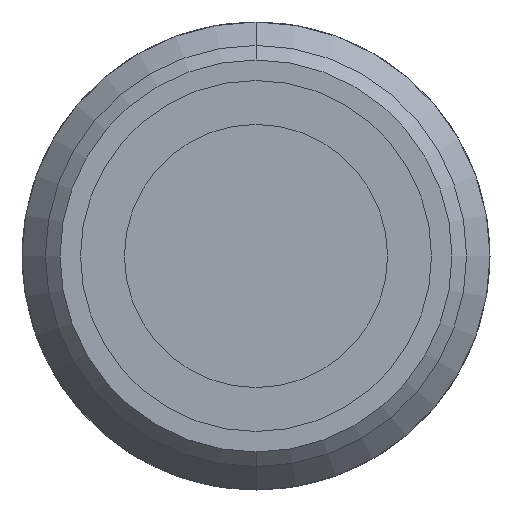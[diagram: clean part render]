
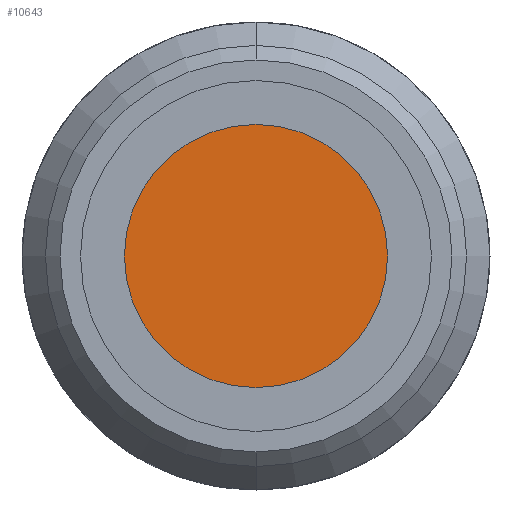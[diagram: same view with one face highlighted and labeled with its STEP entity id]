
A CAD part, front view. The second image highlights one B-rep face of the part: STEP entity #10643.
In plain terms, the highlighted planar face has unit normal (0, -1, 0).
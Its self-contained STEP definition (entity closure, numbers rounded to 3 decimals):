
#1238 = CARTESIAN_POINT ( 'NONE',  ( 0., 0.101, 0. ) ) ;
#1239 = DIRECTION ( 'NONE',  ( 0., 1., 0. ) ) ;
#2089 = DIRECTION ( 'NONE',  ( 0., 0., -1. ) ) ;
#2782 = FACE_OUTER_BOUND ( 'NONE', #7764, .T. ) ;
#2904 = AXIS2_PLACEMENT_3D ( 'NONE', #1238, #7364, #2089 ) ;
#2906 = PLANE ( 'NONE',  #3632 ) ;
#2941 = EDGE_CURVE ( 'NONE', #9294, #9032, #9714, .T. ) ;
#3301 = ORIENTED_EDGE ( 'NONE', *, *, #8820, .T. ) ;
#3632 = AXIS2_PLACEMENT_3D ( 'NONE', #10146, #1239, #7366 ) ;
#3783 = CARTESIAN_POINT ( 'NONE',  ( 0., 0.101, 0. ) ) ;
#4002 = ORIENTED_EDGE ( 'NONE', *, *, #2941, .T. ) ;
#4652 = DIRECTION ( 'NONE',  ( 0., 0., -1. ) ) ;
#6593 = CARTESIAN_POINT ( 'NONE',  ( 0., 0.101, 4.5 ) ) ;
#7364 = DIRECTION ( 'NONE',  ( 0., -1., 0. ) ) ;
#7366 = DIRECTION ( 'NONE',  ( 0., 0., 1. ) ) ;
#7502 = AXIS2_PLACEMENT_3D ( 'NONE', #3783, #10134, #4652 ) ;
#7764 = EDGE_LOOP ( 'NONE', ( #3301, #4002 ) ) ;
#8820 = EDGE_CURVE ( 'NONE', #9032, #9294, #11295, .T. ) ;
#8878 = CARTESIAN_POINT ( 'NONE',  ( 0., 0.101, -4.5 ) ) ;
#9032 = VERTEX_POINT ( 'NONE', #8878 ) ;
#9294 = VERTEX_POINT ( 'NONE', #6593 ) ;
#9714 = CIRCLE ( 'NONE', #2904, 4.5 ) ;
#10134 = DIRECTION ( 'NONE',  ( 0., -1., 0. ) ) ;
#10146 = CARTESIAN_POINT ( 'NONE',  ( -4.5, 0.101, 0. ) ) ;
#10643 = ADVANCED_FACE ( 'NONE', ( #2782 ), #2906, .F. ) ;
#11295 = CIRCLE ( 'NONE', #7502, 4.5 ) ;
